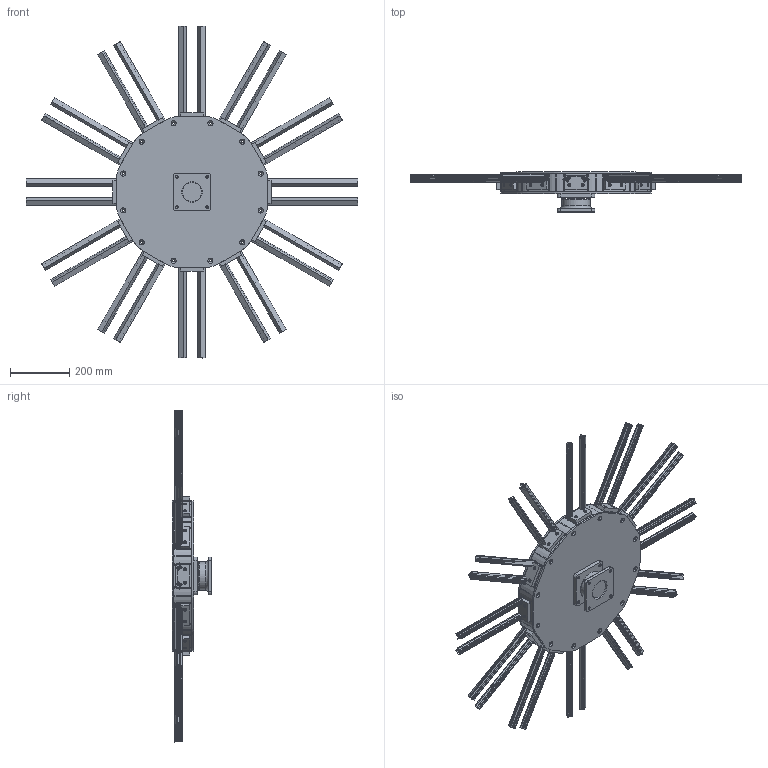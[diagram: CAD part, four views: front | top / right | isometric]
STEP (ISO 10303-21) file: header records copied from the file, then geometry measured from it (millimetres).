
FILE_DESCRIPTION(/* description */ (''),/* implementation_level */ '2;1');
FILE_NAME(/* name */ 'RJ062122-1-SAFRAN-12-SIDED-RACK.stp',/* time_stamp */ '2025-01-23T11:57:27-05:00',/* author */ ('amoles'),/* organization */ (''),/* preprocessor_version */ 'ST-DEVELOPER v19.2',/* originating_system */ 'Autodesk Inventor 2024',/* authorisation */ '');
FILE_SCHEMA (('AUTOMOTIVE_DESIGN { 1 0 10303 214 3 1 1 }'));
Length unit declared in the file: inch
Products named in the file (8): RJ062122-1-SAFRAN-12-SIDED-RACK; RJ062122-1-10; RJ062122-1-11; 20.1094 45 R 30-2.362in; RJ062122-1-01; RJ062122-1-12; 20.1075 PROFILE 19X19 SQUARE HOLE_12; 9443T22_Maintenance-Free Turntable
Assembly tree (65 placements, depth 2):
  RJ062122-1-SAFRAN-12-SIDED-RACK
    RJ062122-1-10
    RJ062122-1-11
    20.1094 45 R 30-2.362in  x13
    RJ062122-1-01  x13
    RJ062122-1-12  x12
    20.1075 PROFILE 19X19 SQUARE HOLE_12  x24
    9443T22_Maintenance-Free Turntable
Bounding box: 1117.6 x 134.42 x 1117.6 mm (x, y, z)
Volume: 6125725.9 mm3; surface area: 3615180.9 mm2
Topology: 66 solids, 66 shells, 4834 faces, 14019 edges, 9296 vertices
Faces by surface type: plane 3423, cylinder 1177, cone 228, torus 6
Full cylindrical faces by diameter (mm): 2.032 x1, 5.182 x52, 5.512 x24, 8.236 x28, 8.992 x24, 9.525 x32, 10.084 x4, 25.4 x1, 47.625 x2, 63.5 x1, 69.85 x1, 95.25 x1
Entity records: 22264 total; most frequent: CARTESIAN_POINT 6176, DIRECTION 3271, ORIENTED_EDGE 3242, EDGE_CURVE 1621, AXIS2_PLACEMENT_3D 1135, VERTEX_POINT 1038, LINE 1001, VECTOR 1001
